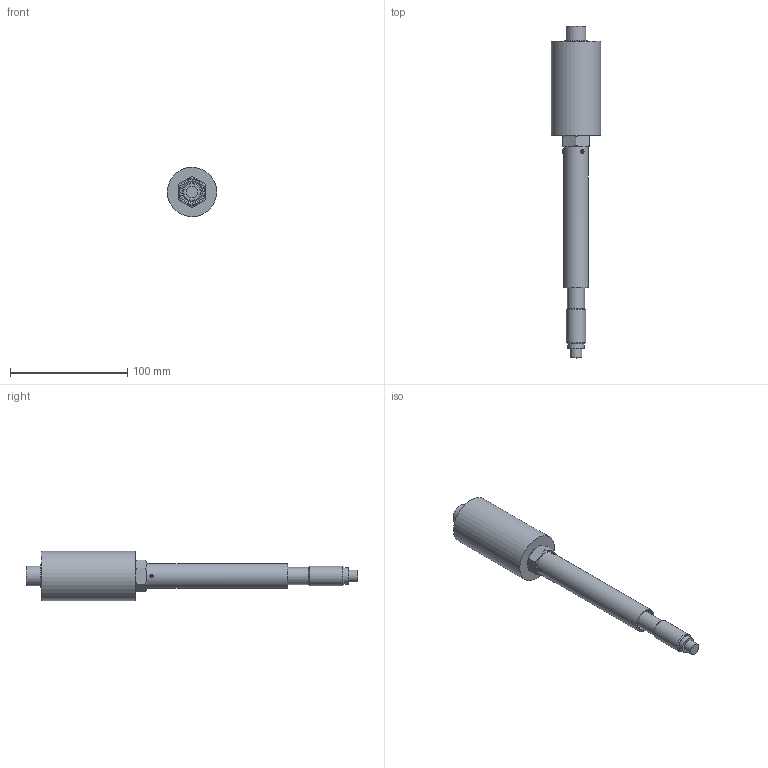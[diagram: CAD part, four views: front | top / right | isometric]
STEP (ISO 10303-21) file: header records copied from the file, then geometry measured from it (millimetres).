
FILE_DESCRIPTION (( 'STEP AP203' ), '1' );
FILE_NAME ('YICZ100PHC-1(0).STEP', '2023-06-23T01:48:51', ( '' ), ( '' ), 'SwSTEP 2.0', 'SolidWorks 2021', '' );
FILE_SCHEMA (( 'CONFIG_CONTROL_DESIGN' ));
Length unit declared in the file: millimetre
Products named in the file (1): YICZ100PHC-1(0)
Bounding box: 41.96 x 283 x 41.96 mm (x, y, z)
Volume: 164137.6 mm3; surface area: 38034.8 mm2
Topology: 2 solids, 2 shells, 83 faces, 176 edges, 115 vertices
Faces by surface type: plane 46, cylinder 23, cone 14
Full cylindrical faces by diameter (mm): 3 x6, 10 x1, 14 x1, 14.6 x2, 16.662 x1, 16.9 x1, 17 x2, 19 x1, 21 x1, 42 x1
Entity records: 2487 total; most frequent: CARTESIAN_POINT 764, DIRECTION 342, ORIENTED_EDGE 276, EDGE_CURVE 138, AXIS2_PLACEMENT_3D 138, EDGE_LOOP 134, VERTEX_POINT 108, FACE_OUTER_BOUND 100
